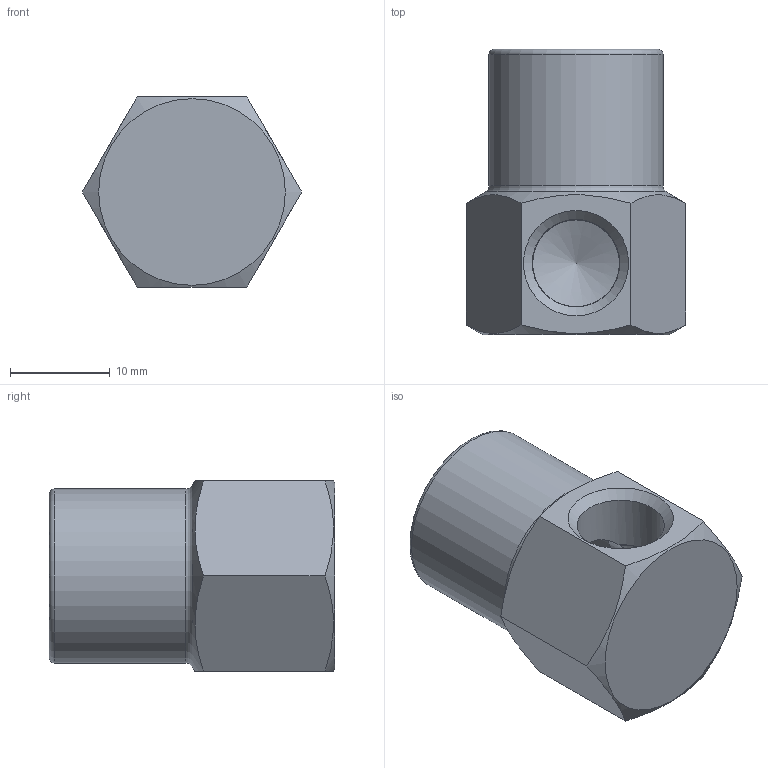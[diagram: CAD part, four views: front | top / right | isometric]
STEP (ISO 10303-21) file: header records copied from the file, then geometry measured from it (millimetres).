
FILE_DESCRIPTION(/* description */ (''),/* implementation_level */ '2;1');
FILE_NAME(/* name */ 'C:/Users/drich/Desktop/1814S v1.step',/* time_stamp */ '2021-03-10T16:32:12-06:00',/* author */ (''),/* organization */ (''),/* preprocessor_version */ 'ST-DEVELOPER v18.1',/* originating_system */ 'Autodesk Translation Framework v9.10.0.1330',/* authorisation */ '');
FILE_SCHEMA (('AUTOMOTIVE_DESIGN { 1 0 10303 214 3 1 1 }'));
Length unit declared in the file: inch
Products named in the file (1): 1814S
Bounding box: 22 x 28.57 x 19.05 mm (x, y, z)
Volume: 5325.1 mm3; surface area: 3116.1 mm2
Topology: 1 solids, 1 shells, 25 faces, 64 edges, 41 vertices
Faces by surface type: plane 10, cylinder 7, cone 6, torus 2
Full cylindrical faces by diameter (mm): 8.707 x2, 8.763 x1, 11.1 x1, 11.176 x1, 17.45 x1
Entity records: 796 total; most frequent: CARTESIAN_POINT 171, DIRECTION 127, ORIENTED_EDGE 126, EDGE_CURVE 63, AXIS2_PLACEMENT_3D 53, VERTEX_POINT 41, EDGE_LOOP 28, FACE_OUTER_BOUND 25
